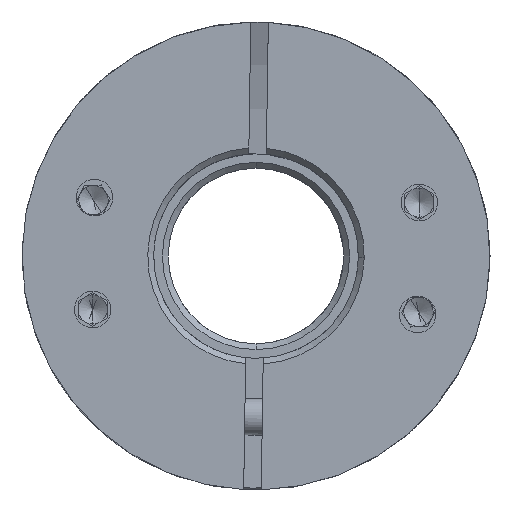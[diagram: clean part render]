
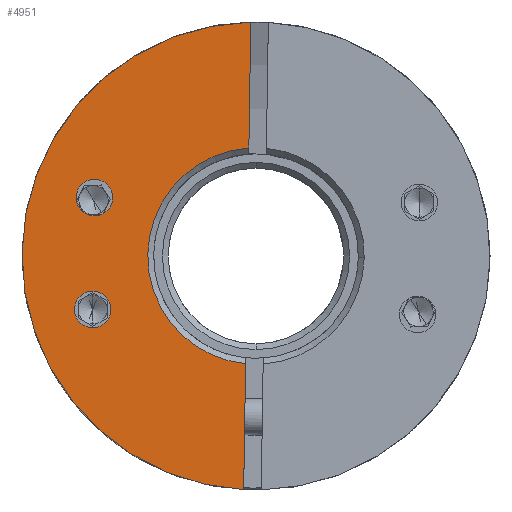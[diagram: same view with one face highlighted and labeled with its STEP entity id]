
A CAD part, front view. The second image highlights one B-rep face of the part: STEP entity #4951.
In plain terms, the highlighted planar face has unit normal (0, -1, 0).
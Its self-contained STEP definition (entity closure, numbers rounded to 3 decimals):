
#16 = CARTESIAN_POINT ( 'NONE',  ( -59.178, -19.411, 0. ) ) ;
#325 = EDGE_CURVE ( 'NONE', #9866, #15126, #8768, .T. ) ;
#417 = AXIS2_PLACEMENT_3D ( 'NONE', #20554, #3386, #7297 ) ;
#531 = AXIS2_PLACEMENT_3D ( 'NONE', #24238, #11063, #9035 ) ;
#1057 = CIRCLE ( 'NONE', #2961, 16. ) ;
#1281 = EDGE_CURVE ( 'NONE', #22348, #20774, #2041, .T. ) ;
#1892 = DIRECTION ( 'NONE',  ( 1., 0., -0.015 ) ) ;
#2041 = LINE ( 'NONE', #10316, #3765 ) ;
#2611 = DIRECTION ( 'NONE',  ( 0., 1., 0. ) ) ;
#2961 = AXIS2_PLACEMENT_3D ( 'NONE', #14173, #4901, #16073 ) ;
#3386 = DIRECTION ( 'NONE',  ( 0., 1., 0. ) ) ;
#3493 = ORIENTED_EDGE ( 'NONE', *, *, #6471, .T. ) ;
#3634 = CIRCLE ( 'NONE', #23483, 7.4 ) ;
#3734 = DIRECTION ( 'NONE',  ( 0., 1., 0. ) ) ;
#3765 = VECTOR ( 'NONE', #12157, 1000. ) ;
#3830 = CIRCLE ( 'NONE', #13592, 16. ) ;
#4415 = CARTESIAN_POINT ( 'NONE',  ( -60.021, -19.411, -15.978 ) ) ;
#4698 = DIRECTION ( 'NONE',  ( 0., 1., 0. ) ) ;
#4901 = DIRECTION ( 'NONE',  ( 0., -1., 0. ) ) ;
#4951 = ADVANCED_FACE ( 'NONE', ( #19567, #9290, #15794 ), #11246, .T. ) ;
#5535 = DIRECTION ( 'NONE',  ( 1., 0., -0.015 ) ) ;
#5858 = ORIENTED_EDGE ( 'NONE', *, *, #13235, .T. ) ;
#6471 = EDGE_CURVE ( 'NONE', #19502, #8030, #18315, .T. ) ;
#6594 = CARTESIAN_POINT ( 'NONE',  ( -71.595, -19.411, -3.637 ) ) ;
#6926 = EDGE_CURVE ( 'NONE', #23465, #20774, #1057, .T. ) ;
#6959 = VERTEX_POINT ( 'NONE', #15914 ) ;
#7091 = CIRCLE ( 'NONE', #531, 1.25 ) ;
#7176 = EDGE_CURVE ( 'NONE', #22348, #15126, #3634, .T. ) ;
#7297 = DIRECTION ( 'NONE',  ( 1., 0., -0.015 ) ) ;
#7887 = CARTESIAN_POINT ( 'NONE',  ( -68.979, -19.411, 3.975 ) ) ;
#8030 = VERTEX_POINT ( 'NONE', #7887 ) ;
#8768 = LINE ( 'NONE', #23315, #13214 ) ;
#9035 = DIRECTION ( 'NONE',  ( 1., 0., -0.015 ) ) ;
#9290 = FACE_BOUND ( 'NONE', #11573, .T. ) ;
#9866 = VERTEX_POINT ( 'NONE', #17571 ) ;
#9886 = CARTESIAN_POINT ( 'NONE',  ( -75.176, -19.411, 0.243 ) ) ;
#10316 = CARTESIAN_POINT ( 'NONE',  ( -59.687, -19.411, 6.008 ) ) ;
#10326 = CARTESIAN_POINT ( 'NONE',  ( -59.178, -19.411, 0. ) ) ;
#10653 = CARTESIAN_POINT ( 'NONE',  ( -59.666, -19.411, 7.384 ) ) ;
#10685 = ORIENTED_EDGE ( 'NONE', *, *, #13498, .T. ) ;
#11063 = DIRECTION ( 'NONE',  ( 0., 1., 0. ) ) ;
#11246 = PLANE ( 'NONE',  #13112 ) ;
#11268 = EDGE_CURVE ( 'NONE', #15509, #6959, #7091, .T. ) ;
#11573 = EDGE_LOOP ( 'NONE', ( #3493, #5858 ) ) ;
#12043 = EDGE_CURVE ( 'NONE', #9866, #23465, #3830, .T. ) ;
#12080 = DIRECTION ( 'NONE',  ( 1., 0., -0.015 ) ) ;
#12157 = DIRECTION ( 'NONE',  ( -0.015, 0., -1. ) ) ;
#12242 = DIRECTION ( 'NONE',  ( 0., -1., 0. ) ) ;
#13112 = AXIS2_PLACEMENT_3D ( 'NONE', #16, #13115, #1892 ) ;
#13115 = DIRECTION ( 'NONE',  ( 0., -1., 0. ) ) ;
#13214 = VECTOR ( 'NONE', #23155, 1000. ) ;
#13235 = EDGE_CURVE ( 'NONE', #8030, #19502, #19600, .T. ) ;
#13255 = ORIENTED_EDGE ( 'NONE', *, *, #6926, .T. ) ;
#13498 = EDGE_CURVE ( 'NONE', #6959, #15509, #18396, .T. ) ;
#13538 = ORIENTED_EDGE ( 'NONE', *, *, #325, .F. ) ;
#13592 = AXIS2_PLACEMENT_3D ( 'NONE', #10326, #12242, #12080 ) ;
#13671 = EDGE_LOOP ( 'NONE', ( #21232, #15134, #13538, #22713, #13255 ) ) ;
#13874 = CARTESIAN_POINT ( 'NONE',  ( -70.345, -19.411, -3.656 ) ) ;
#14173 = CARTESIAN_POINT ( 'NONE',  ( -59.178, -19.411, 0. ) ) ;
#15126 = VERTEX_POINT ( 'NONE', #10653 ) ;
#15134 = ORIENTED_EDGE ( 'NONE', *, *, #7176, .T. ) ;
#15350 = AXIS2_PLACEMENT_3D ( 'NONE', #21382, #4698, #23258 ) ;
#15509 = VERTEX_POINT ( 'NONE', #6594 ) ;
#15753 = DIRECTION ( 'NONE',  ( 1., 0., -0.015 ) ) ;
#15794 = FACE_BOUND ( 'NONE', #19095, .T. ) ;
#15914 = CARTESIAN_POINT ( 'NONE',  ( -69.095, -19.411, -3.675 ) ) ;
#16073 = DIRECTION ( 'NONE',  ( 1., 0., -0.015 ) ) ;
#16785 = CARTESIAN_POINT ( 'NONE',  ( -59.178, -19.411, 0. ) ) ;
#17074 = CARTESIAN_POINT ( 'NONE',  ( -59.89, -19.411, -7.366 ) ) ;
#17571 = CARTESIAN_POINT ( 'NONE',  ( -59.535, -19.411, 15.996 ) ) ;
#18315 = CIRCLE ( 'NONE', #15350, 1.25 ) ;
#18396 = CIRCLE ( 'NONE', #19089, 1.25 ) ;
#19089 = AXIS2_PLACEMENT_3D ( 'NONE', #13874, #2611, #15753 ) ;
#19095 = EDGE_LOOP ( 'NONE', ( #19209, #10685 ) ) ;
#19209 = ORIENTED_EDGE ( 'NONE', *, *, #11268, .T. ) ;
#19502 = VERTEX_POINT ( 'NONE', #20378 ) ;
#19567 = FACE_OUTER_BOUND ( 'NONE', #13671, .T. ) ;
#19600 = CIRCLE ( 'NONE', #417, 1.25 ) ;
#20378 = CARTESIAN_POINT ( 'NONE',  ( -71.479, -19.411, 4.013 ) ) ;
#20554 = CARTESIAN_POINT ( 'NONE',  ( -70.229, -19.411, 3.994 ) ) ;
#20774 = VERTEX_POINT ( 'NONE', #4415 ) ;
#21232 = ORIENTED_EDGE ( 'NONE', *, *, #1281, .F. ) ;
#21382 = CARTESIAN_POINT ( 'NONE',  ( -70.229, -19.411, 3.994 ) ) ;
#22348 = VERTEX_POINT ( 'NONE', #17074 ) ;
#22713 = ORIENTED_EDGE ( 'NONE', *, *, #12043, .T. ) ;
#23155 = DIRECTION ( 'NONE',  ( -0.015, 0., -1. ) ) ;
#23258 = DIRECTION ( 'NONE',  ( 1., 0., -0.015 ) ) ;
#23315 = CARTESIAN_POINT ( 'NONE',  ( -59.687, -19.411, 6.008 ) ) ;
#23465 = VERTEX_POINT ( 'NONE', #9886 ) ;
#23483 = AXIS2_PLACEMENT_3D ( 'NONE', #16785, #3734, #5535 ) ;
#24238 = CARTESIAN_POINT ( 'NONE',  ( -70.345, -19.411, -3.656 ) ) ;
